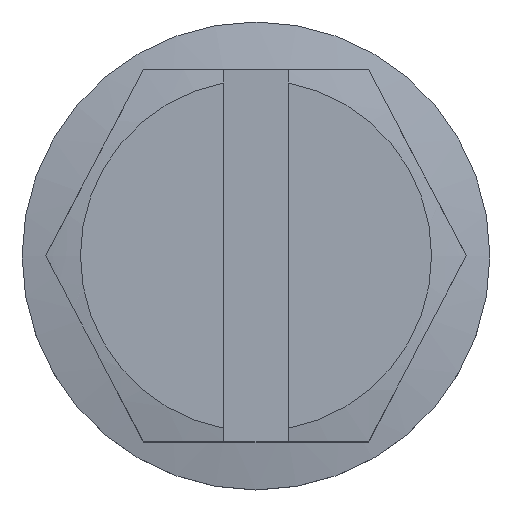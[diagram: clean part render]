
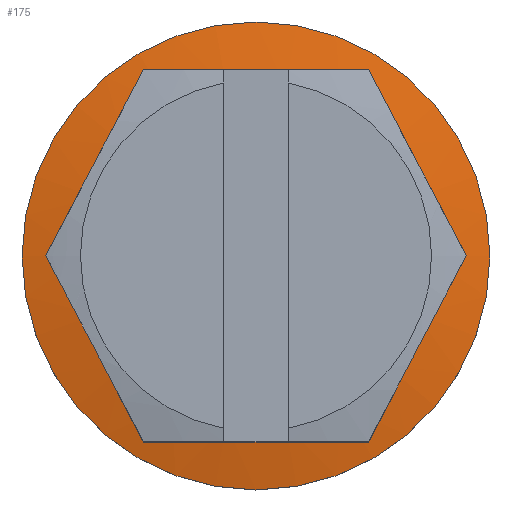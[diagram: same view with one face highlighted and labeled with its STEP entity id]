
A CAD part, top view. The second image highlights one B-rep face of the part: STEP entity #175.
In plain terms, the highlighted conical face has half-angle 79.461 degrees and reference radius 8 mm.
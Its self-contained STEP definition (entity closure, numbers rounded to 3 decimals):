
#109=CONICAL_SURFACE('',#581,8.,79.461);
#125=FACE_BOUND('',#252,.T.);
#175=ADVANCED_FACE('',(#125,#215),#109,.T.);
#215=FACE_OUTER_BOUND('',#253,.T.);
#252=EDGE_LOOP('',(#420));
#253=EDGE_LOOP('',(#421));
#420=ORIENTED_EDGE('',*,*,#523,.T.);
#421=ORIENTED_EDGE('',*,*,#526,.F.);
#463=VERTEX_POINT('',#2902);
#466=VERTEX_POINT('',#2910);
#523=EDGE_CURVE('',#463,#463,#538,.T.);
#526=EDGE_CURVE('',#466,#466,#541,.T.);
#538=CIRCLE('',#574,3.7);
#541=CIRCLE('',#579,8.);
#574=AXIS2_PLACEMENT_3D('',#2901,#671,#672);
#579=AXIS2_PLACEMENT_3D('',#2909,#681,#682);
#581=AXIS2_PLACEMENT_3D('',#2912,#685,#686);
#671=DIRECTION('',(0.,0.,-1.));
#672=DIRECTION('',(-1.,0.,0.));
#681=DIRECTION('',(0.,0.,-1.));
#682=DIRECTION('',(-1.,0.,0.));
#685=DIRECTION('',(0.,0.,-1.));
#686=DIRECTION('',(-1.,0.,0.));
#2901=CARTESIAN_POINT('',(0.,0.,-5.3));
#2902=CARTESIAN_POINT('',(-3.7,0.,-5.3));
#2909=CARTESIAN_POINT('',(0.,0.,-6.1));
#2910=CARTESIAN_POINT('',(-8.,0.,-6.1));
#2912=CARTESIAN_POINT('',(0.,0.,-6.1));
